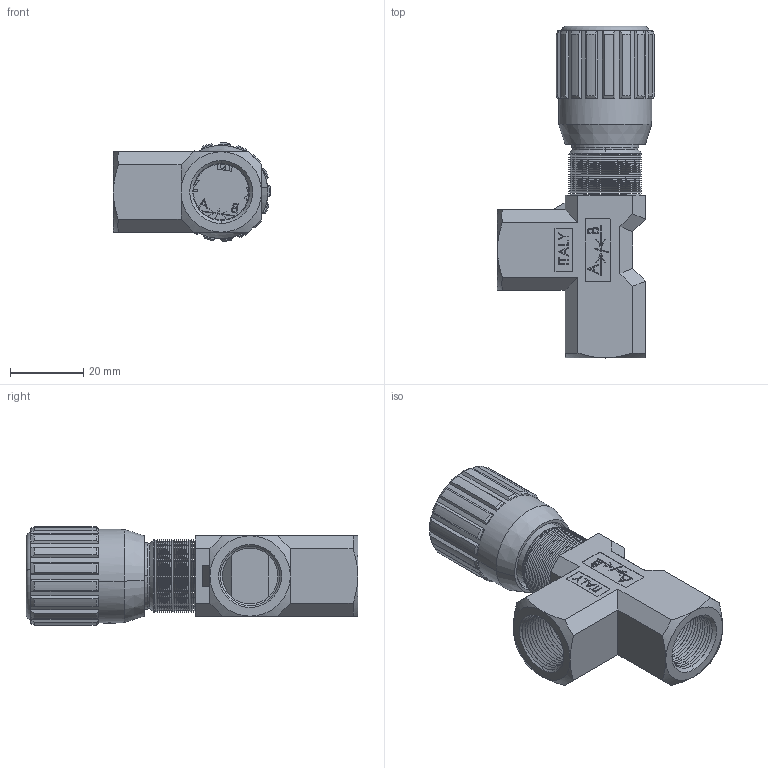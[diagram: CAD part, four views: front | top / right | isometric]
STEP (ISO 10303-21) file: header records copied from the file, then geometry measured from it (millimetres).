
FILE_DESCRIPTION (( 'STEP AP214' ), '1' );
FILE_NAME ('252-2-38 VOLANTINO F-F.STEP', '2015-05-15T15:39:35', ( '' ), ( '' ), 'SwSTEP 2.0', 'SolidWorks 2014', '' );
FILE_SCHEMA (( 'AUTOMOTIVE_DESIGN' ));
Length unit declared in the file: millimetre
Products named in the file (1): 252-2-38 VOLANTINO F-F
Bounding box: 43 x 90.8 x 27 mm (x, y, z)
Surface area: 13245.1 mm2 (no closed solid volume)
Topology: 0 solids, 31 shells, 583 faces, 1846 edges, 1222 vertices
Faces by surface type: plane 269, cone 186, cylinder 63, bspline 63, torus 2
Entity records: 30670 total; most frequent: CARTESIAN_POINT 8538, ORIENTED_EDGE 3134, DIRECTION 3070, EDGE_CURVE 1846, VERTEX_POINT 1222, LINE 1154, VECTOR 1154, AXIS2_PLACEMENT_3D 958
